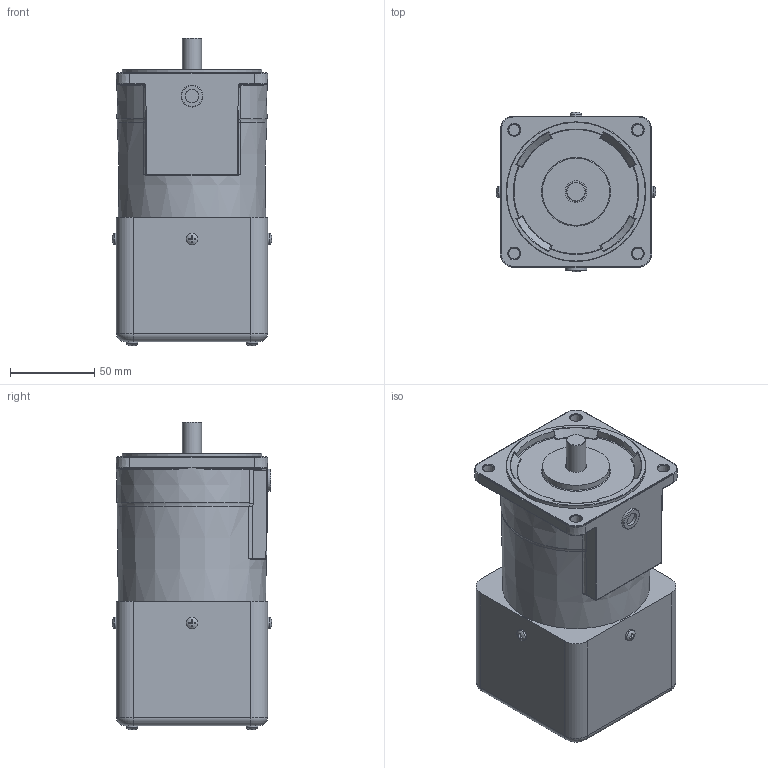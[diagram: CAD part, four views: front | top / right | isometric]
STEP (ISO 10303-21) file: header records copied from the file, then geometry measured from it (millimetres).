
FILE_DESCRIPTION (( 'STEP AP214' ), '1' );
FILE_NAME ('9TDG¤±-30F2P.STEP', '2025-01-13T08:12:35', ( '' ), ( '' ), 'SwSTEP 2.0', 'SolidWorks 2024', '' );
FILE_SCHEMA (( 'AUTOMOTIVE_DESIGN' ));
Length unit declared in the file: millimetre
Products named in the file (1): 9TDGㅁ-30F2P
Bounding box: 95.13 x 95.13 x 183.07 mm (x, y, z)
Volume: 1140984.8 mm3; surface area: 73793.8 mm2
Topology: 1 solids, 1 shells, 427 faces, 1092 edges, 697 vertices
Faces by surface type: plane 196, cylinder 134, torus 35, cone 32, bspline 28, sphere 2
Full cylindrical faces by diameter (mm): 6.5 x4, 7 x8, 8 x1, 10 x1, 11.39 x1, 13 x2, 40 x1, 83.1 x1
Entity records: 13372 total; most frequent: CARTESIAN_POINT 3540, ORIENTED_EDGE 2034, DIRECTION 1969, EDGE_CURVE 1017, AXIS2_PLACEMENT_3D 743, VERTEX_POINT 678, EDGE_LOOP 521, VECTOR 483
